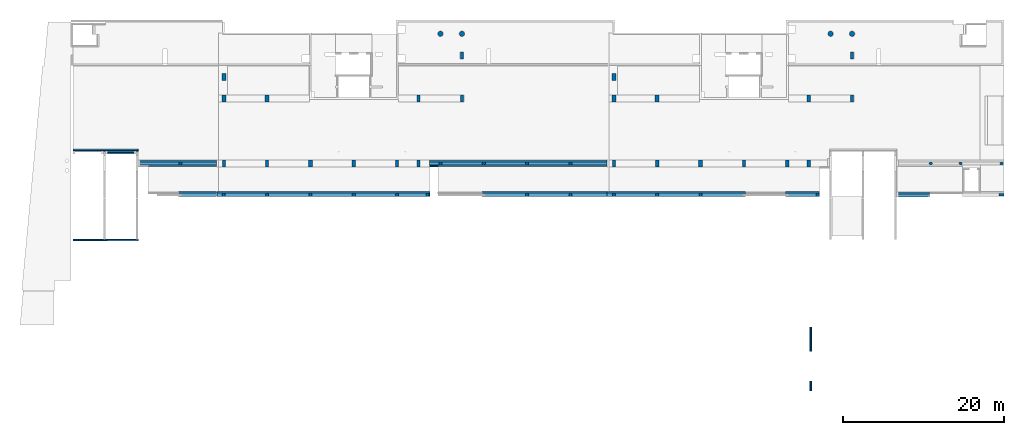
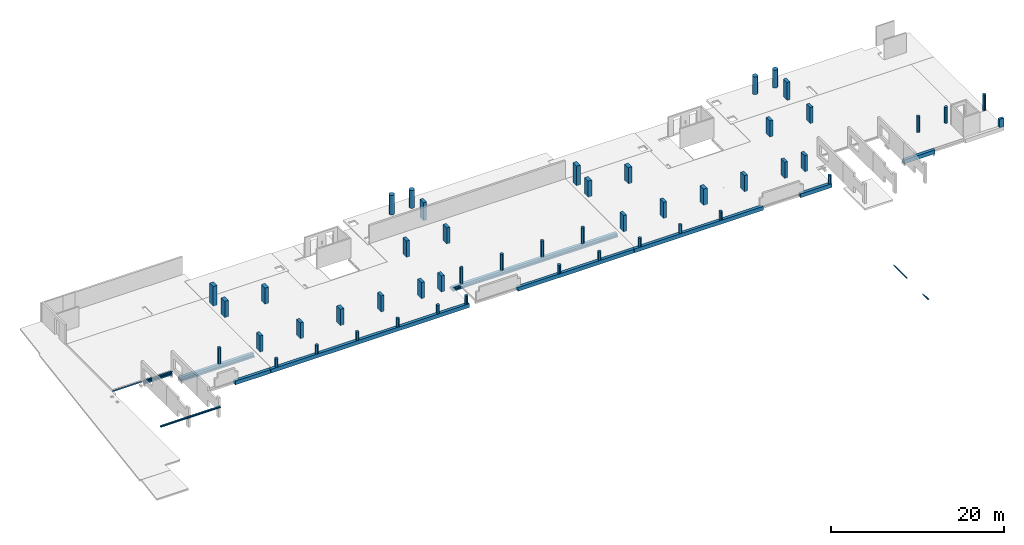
# One storey, part 1 of 8: 49 columns, 14 beams.
"""IFC2X3 building model written with IfcOpenShell, lengths in millimetres."""

import ifcopenshell
import ifcopenshell.guid

model = None  # the IFC model being written
_history = None  # IfcOwnerHistory: only IFC2X3 demands one
_inside = {}  # id of a spatial element -> (the spatial element, [elements in it])
_under = {}  # id of a project, library or spatial element -> (it, [spatial elements below it])
_declared = {}  # id of a project -> (the project, [libraries it declares])
_typed = {}  # id of a type object -> (the type object, [elements of that type])
_made_of = {}  # id of a material, layer set ... -> (it, [elements and type objects made of it])


def new_model(schema):
    """Start an empty IFC model of exactly this schema.

    Asked for "IFC4X3", IfcOpenShell would pick the latest addendum, in which some entities
    have other attributes; the version numbers below select the first issue.
    IFC2X3 requires an IfcOwnerHistory on every rooted entity: one is made here for all.
    """
    global model, _history
    if schema == "IFC4X3":
        model = ifcopenshell.file(schema_version=(4, 3, 0, 0))
    else:
        model = ifcopenshell.file(schema=schema)
    _inside.clear()
    _under.clear()
    _declared.clear()
    _typed.clear()
    _made_of.clear()
    _history = None
    if model.schema == "IFC2X3":
        org = make("IfcOrganization", Name="unknown")
        user = make(
            "IfcPersonAndOrganization",
            ThePerson=make("IfcPerson", FamilyName="unknown"),
            TheOrganization=org,
        )
        app = make(
            "IfcApplication",
            ApplicationDeveloper=org,
            Version="unknown",
            ApplicationFullName="unknown",
            ApplicationIdentifier="unknown",
        )
        _history = make(
            "IfcOwnerHistory",
            OwningUser=user,
            OwningApplication=app,
            ChangeAction="ADDED",
            CreationDate=0,
        )
    return model


def make(cls, **values):
    """One entity of the class cls with the attributes given. An attribute that is None is left unset."""
    return model.create_entity(
        cls, **{name: value for name, value in values.items() if value is not None}
    )


def entity(cls, *values):
    """Any entity or typed value of the class cls, its attributes in the order of the schema. None: left unset."""
    e = model.create_entity(cls)
    for i, value in enumerate(values):
        if value is not None:
            e[i] = value
    return e


def rooted(cls, **values):
    """An entity with a GlobalId (a new one), such as an element, a storey or a relation."""
    return make(cls, GlobalId=ifcopenshell.guid.new(), OwnerHistory=_history, **values)


def si_unit(unit_type, name, prefix=None):
    """IfcSIUnit, for example si_unit("LENGTHUNIT", "METRE", prefix="MILLI")."""
    return make("IfcSIUnit", UnitType=unit_type, Prefix=prefix, Name=name)


def converted_unit(unit_type, name, factor, base, dimensions=None, offset=None):
    """IfcConversionBasedUnit, such as the inch: factor (a typed value) times the base unit."""
    return make(
        "IfcConversionBasedUnit"
        if offset is None
        else "IfcConversionBasedUnitWithOffset",
        ConversionOffset=offset,
        Dimensions=None
        if dimensions is None
        else entity("IfcDimensionalExponents", *dimensions),
        UnitType=unit_type,
        Name=name,
        ConversionFactor=make(
            "IfcMeasureWithUnit", ValueComponent=factor, UnitComponent=base
        ),
    )


def derived_unit(unit_type, elements):
    """IfcDerivedUnit: a product of units, each with its exponent."""
    return make(
        "IfcDerivedUnit",
        Elements=[
            make("IfcDerivedUnitElement", Unit=unit, Exponent=power)
            for unit, power in elements
        ],
        UnitType=unit_type,
    )


def assignment(units):
    """IfcUnitAssignment: the units of a project."""
    return None if units is None else make("IfcUnitAssignment", Units=units)


def point(xyz):
    """IfcCartesianPoint."""
    return None if xyz is None else make("IfcCartesianPoint", Coordinates=xyz)


def direction(xyz):
    """IfcDirection."""
    return None if xyz is None else make("IfcDirection", DirectionRatios=xyz)


def frame(location, z_axis=None, x_axis=None):
    """IfcAxis2Placement3D, a coordinate frame: its origin and axes. An axis left out is left unset."""
    return make(
        "IfcAxis2Placement3D",
        Location=point(location),
        Axis=direction(z_axis),
        RefDirection=direction(x_axis),
    )


def frame_2d(location, x_axis=None):
    """IfcAxis2Placement2D, a coordinate frame in the plane: its origin and x axis."""
    return make(
        "IfcAxis2Placement2D", Location=point(location), RefDirection=direction(x_axis)
    )


def origin():
    """The frame at (0, 0, 0) with its axes left unset."""
    return frame((0.0, 0.0, 0.0))


def origin_2d_with_axis():
    """The frame at (0, 0) in the plane with the x axis (1, 0) written out."""
    return frame_2d((0.0, 0.0), x_axis=(1.0, 0.0))


def place(relative_to, where):
    """IfcLocalPlacement: puts the frame where relative to a parent placement (None: the world)."""
    return make(
        "IfcLocalPlacement", PlacementRelTo=relative_to, RelativePlacement=where
    )


def context(
    kind, dimensions, precision=None, world=None, true_north=None, identifier=None
):
    """IfcGeometricRepresentationContext, for example the 3D "Model" context."""
    return make(
        "IfcGeometricRepresentationContext",
        ContextIdentifier=identifier,
        ContextType=kind,
        CoordinateSpaceDimension=dimensions,
        Precision=precision,
        WorldCoordinateSystem=world,
        TrueNorth=true_north,
    )


def subcontext(parent, identifier, kind, view, scale=None):
    """IfcGeometricRepresentationSubContext, for example "Body" below "Model"."""
    return make(
        "IfcGeometricRepresentationSubContext",
        ContextIdentifier=identifier,
        ContextType=kind,
        ParentContext=parent,
        TargetScale=scale,
        TargetView=view,
    )


def project(units=None, contexts=None):
    """IfcProject with its units and contexts."""
    return rooted(
        "IfcProject",
        Name="project",
        RepresentationContexts=contexts,
        UnitsInContext=assignment(units),
    )


def spatial(cls, under=None, at=None, **own):
    """A site, building, storey or space (cls), placed at a placement, below another one or the project."""
    s = rooted(cls, ObjectPlacement=at, **own)
    if under is not None:
        _under.setdefault(under.id(), (under, []))[1].append(s)
    return s


def polyline(points):
    """IfcPolyline through the points."""
    return make("IfcPolyline", Points=[point(p) for p in points])


def circle_curve(where, radius):
    """IfcCircle in the frame where."""
    return make("IfcCircle", Position=where, Radius=radius)


def parameter(value):
    """IfcParameterValue: where a trimmed curve begins or ends, as a parameter of its basis curve."""
    return model.create_entity("IfcParameterValue", value)


def trimmed(basis, trim1, trim2, sense, master):
    """IfcTrimmedCurve: the piece of a basis curve between two trims."""
    return make(
        "IfcTrimmedCurve",
        BasisCurve=basis,
        Trim1=trim1,
        Trim2=trim2,
        SenseAgreement=sense,
        MasterRepresentation=master,
    )


def segment(curve, same_sense, transition):
    """IfcCompositeCurveSegment."""
    return make(
        "IfcCompositeCurveSegment",
        Transition=transition,
        SameSense=same_sense,
        ParentCurve=curve,
    )


def composite_curve(segments, self_intersect=None):
    """IfcCompositeCurve: segments joined end to end."""
    return make("IfcCompositeCurve", Segments=segments, SelfIntersect=self_intersect)


def profile(cls, at=None, kind="AREA", **sizes):
    """A parametric profile (cls). Its sizes go by their IFC names, for example OverallWidth=200.0."""
    return make(cls, ProfileType=kind, Position=at, **sizes)


def rectangle(**sizes):
    """IfcRectangleProfileDef."""
    return profile("IfcRectangleProfileDef", **sizes)


def circle(**sizes):
    """IfcCircleProfileDef."""
    return profile("IfcCircleProfileDef", **sizes)


def outline(outer, holes=None, kind="AREA"):
    """IfcArbitraryClosedProfileDef: a profile drawn as a closed curve; with holes, ...WithVoids."""
    if holes is None:
        return make("IfcArbitraryClosedProfileDef", ProfileType=kind, OuterCurve=outer)
    return make(
        "IfcArbitraryProfileDefWithVoids",
        ProfileType=kind,
        OuterCurve=outer,
        InnerCurves=holes,
    )


def extrude(swept, where, along, depth):
    """IfcExtrudedAreaSolid: the profile swept, set in the frame where, extruded along a direction by depth."""
    return make(
        "IfcExtrudedAreaSolid",
        SweptArea=swept,
        Position=where,
        ExtrudedDirection=direction(along),
        Depth=depth,
    )


def shape(context_of_items, identifier, shape_type, items):
    """IfcShapeRepresentation: the items that make up one representation, for example the "Body"."""
    return make(
        "IfcShapeRepresentation",
        ContextOfItems=context_of_items,
        RepresentationIdentifier=identifier,
        RepresentationType=shape_type,
        Items=items,
    )


def source(mapping_origin, context_of_items, identifier, shape_type, items):
    """IfcRepresentationMap: a shape defined once, which mapped items show again and again."""
    return make(
        "IfcRepresentationMap",
        MappingOrigin=mapping_origin,
        MappedRepresentation=shape(context_of_items, identifier, shape_type, items),
    )


def transform(
    local_origin,
    x_axis=None,
    y_axis=None,
    z_axis=None,
    scale=None,
    scale2=None,
    scale3=None,
    uniform=True,
):
    """IfcCartesianTransformationOperator3D, or its non-uniform kind. x_axis, y_axis, z_axis: its Axis1, 2, 3."""
    if uniform:
        return make(
            "IfcCartesianTransformationOperator3D",
            Axis1=direction(x_axis),
            Axis2=direction(y_axis),
            LocalOrigin=point(local_origin),
            Scale=scale,
            Axis3=direction(z_axis),
        )
    return make(
        "IfcCartesianTransformationOperator3DnonUniform",
        Axis1=direction(x_axis),
        Axis2=direction(y_axis),
        LocalOrigin=point(local_origin),
        Scale=scale,
        Axis3=direction(z_axis),
        Scale2=scale2,
        Scale3=scale3,
    )


def mapped(mapping_source, mapping_target):
    """IfcMappedItem: shows the shape of a source again, moved by a transform."""
    return make(
        "IfcMappedItem", MappingSource=mapping_source, MappingTarget=mapping_target
    )


def material(Name=None, Category=None):
    """IfcMaterial."""
    return make("IfcMaterial", Name=Name, Category=Category)


def made_of(thing, what):
    """Note that an element or type object is made of a material, layer set ...; save() writes the relation."""
    if what is not None:
        _made_of.setdefault(what.id(), (what, []))[1].append(thing)
    return thing


def type_object(cls, material=None, **own):
    """A type object (cls), such as IfcWallType, which elements share."""
    return made_of(rooted(cls, **own), material)


def type_shapes(of_type, sources):
    """Give a type object the sources (RepresentationMaps) that its elements show as mapped items."""
    of_type.RepresentationMaps = sources


def element(
    cls,
    number,
    at=None,
    inside=None,
    cuts=None,
    type_object=None,
    material=None,
    context=None,
    identifier="Body",
    shape_type=None,
    held_by="IfcProductDefinitionShape",
    body=None,
    shapes=None,
    **own,
):
    """One element of the class cls, such as IfcWall. Its Tag is "e" and its number.

    at: its placement. inside: the storey or other place that contains it. cuts: it is an
    opening in that element (IfcRelVoidsElement). A single representation is given by context,
    identifier, shape_type and body (its items); several are given by shapes. held_by: the class
    of the entity that holds the representations. save() writes the other relations.
    """
    e = rooted(cls, Tag="e%d" % number, ObjectPlacement=at, **own)
    if body is not None:
        shapes = [shape(context, identifier, shape_type, body)]
    if shapes is not None:
        e.Representation = make(held_by, Representations=shapes)
    if inside is not None:
        _inside.setdefault(inside.id(), (inside, []))[1].append(e)
    if cuts is not None:
        rooted(
            "IfcRelVoidsElement", RelatingBuildingElement=cuts, RelatedOpeningElement=e
        )
    if type_object is not None:
        _typed.setdefault(type_object.id(), (type_object, []))[1].append(e)
    return made_of(e, material)


def aggregate(whole, parts):
    """IfcRelAggregates: a whole, such as a stair, and the parts it consists of."""
    return rooted("IfcRelAggregates", RelatingObject=whole, RelatedObjects=parts)


def save(model, path):
    """Write the relations noted so far, then the file.

    IfcRelAggregates (storeys below a building ...), IfcRelContainedInSpatialStructure (elements
    in a storey), IfcRelDefinesByType, IfcRelAssociatesMaterial and IfcRelDeclares: one each for
    every whole, place, type object, material and project.
    """
    for whole, parts in _under.values():
        aggregate(whole, parts)
    for where, things in _inside.values():
        rooted(
            "IfcRelContainedInSpatialStructure",
            RelatedElements=things,
            RelatingStructure=where,
        )
    for kind, things in _typed.values():
        rooted("IfcRelDefinesByType", RelatedObjects=things, RelatingType=kind)
    for what, things in _made_of.values():
        rooted("IfcRelAssociatesMaterial", RelatedObjects=things, RelatingMaterial=what)
    for by, libraries in _declared.values():
        rooted("IfcRelDeclares", RelatingContext=by, RelatedDefinitions=libraries)
    model.write(path)


model = new_model("IFC2X3")

# Units and contexts
model_context = context("Model", 3, precision=0.01, world=origin(), true_north=direction((6.12303176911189e-17, 1.0)))
body_context = subcontext(model_context, "Body", "Model", "MODEL_VIEW")
ifc_project = project(units=[si_unit("LENGTHUNIT", "METRE", prefix="MILLI"), si_unit("AREAUNIT", "SQUARE_METRE"), si_unit("VOLUMEUNIT", "CUBIC_METRE"), converted_unit("PLANEANGLEUNIT", "DEGREE", entity("IfcRatioMeasure", 0.0174532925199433), si_unit("PLANEANGLEUNIT", "RADIAN"), dimensions=[0, 0, 0, 0, 0, 0, 0]), si_unit("MASSUNIT", "GRAM", prefix="KILO"), derived_unit("MASSDENSITYUNIT", [(si_unit("MASSUNIT", "GRAM", prefix="KILO"), 1), (si_unit("LENGTHUNIT", "METRE"), -3)]), si_unit("TIMEUNIT", "SECOND"), si_unit("FREQUENCYUNIT", "HERTZ"), si_unit("THERMODYNAMICTEMPERATUREUNIT", "DEGREE_CELSIUS"), derived_unit("THERMALTRANSMITTANCEUNIT", [(si_unit("MASSUNIT", "GRAM", prefix="KILO"), 1), (si_unit("THERMODYNAMICTEMPERATUREUNIT", "KELVIN"), -1), (si_unit("TIMEUNIT", "SECOND"), -3)]), derived_unit("VOLUMETRICFLOWRATEUNIT", [(si_unit("LENGTHUNIT", "METRE"), 3), (si_unit("TIMEUNIT", "SECOND"), -1)]), si_unit("ELECTRICCURRENTUNIT", "AMPERE"), si_unit("ELECTRICVOLTAGEUNIT", "VOLT"), si_unit("POWERUNIT", "WATT"), si_unit("FORCEUNIT", "NEWTON", prefix="KILO"), si_unit("ILLUMINANCEUNIT", "LUX"), si_unit("LUMINOUSFLUXUNIT", "LUMEN"), si_unit("LUMINOUSINTENSITYUNIT", "CANDELA"), derived_unit("USERDEFINED", [(si_unit("MASSUNIT", "GRAM", prefix="KILO"), -1), (si_unit("LENGTHUNIT", "METRE"), -2), (si_unit("TIMEUNIT", "SECOND"), 3), (si_unit("LUMINOUSFLUXUNIT", "LUMEN"), 1)]), derived_unit("LINEARVELOCITYUNIT", [(si_unit("LENGTHUNIT", "METRE"), 1), (si_unit("TIMEUNIT", "SECOND"), -1)]), si_unit("PRESSUREUNIT", "PASCAL"), derived_unit("USERDEFINED", [(si_unit("LENGTHUNIT", "METRE"), -2), (si_unit("MASSUNIT", "GRAM", prefix="KILO"), 1), (si_unit("TIMEUNIT", "SECOND"), -2)])], contexts=[model_context])

# Site, building, storey
site_placement = place(None, origin())
site = spatial("IfcSite", under=ifc_project, at=site_placement, Name="Default", CompositionType="ELEMENT")
building_placement = place(site_placement, origin())
building = spatial("IfcBuilding", under=site, at=building_placement, Name="niet gebruiken", CompositionType="ELEMENT")
storey_placement = place(building_placement, frame((0.0, 0.0, 3810.0)))
storey = spatial("IfcBuildingStorey", under=building, at=storey_placement, Name="01a eerste tussenverdieping", CompositionType="ELEMENT", Elevation=3810.0)

# Columns
ifc_material_1 = material(Name="NLRS_f2_beton prefab")
column_type_1 = type_object("IfcColumnType", Name="ø400", PredefinedType="COLUMN", material=ifc_material_1)
shared_shape_1 = source(origin(), body_context, "Body", "SweptSolid", [
    extrude(circle(Radius=200.0, at=frame_2d((1.69197988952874e-14, -3.02923644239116e-13), x_axis=(1.0, 0.0))), frame((0.0, 0.0, 3840.0)), (0.0, 0.0, 1.0), 1180.0),
])
type_shapes(column_type_1, [shared_shape_1])
for number, where in (
    (1, (27000.0, 24976.0, -3810.0)),
    (2, (32400.0, 24976.0, -3810.0)),
    (3, (37800.0, 24976.0, -3810.0)),
    (4, (43200.0, 24976.0, -3810.0)),
    (5, (48600.0, 24976.0, -3810.0)),
    (6, (52390.0, 24976.0, -3810.0)),
    (7, (64800.0, 24976.0, -3810.0)),
    (8, (70200.0, 24976.0, -3810.0)),
    (9, (75600.0, 24976.0, -3810.0)),
    (10, (81000.0, 24976.0, -3810.0)),
    (11, (86400.0, 24976.0, -3810.0)),
    (12, (100990.0, 24976.0, -3810.0)),
):
    element("IfcColumn", number, at=place(storey_placement, frame(where)), inside=storey, type_object=column_type_1, material=ifc_material_1, Name="NLRS_28. kolom rond_gen:ø400", ObjectType="ø400", context=body_context, shape_type="MappedRepresentation", body=[
        mapped(shared_shape_1, transform((0.0, 0.0, 0.0), scale=1.0)),
    ])
column_type_2 = type_object("IfcColumnType", Name="400x850", PredefinedType="COLUMN", material=ifc_material_1)
shared_shape_2 = source(origin(), body_context, "Body", "SweptSolid", [
    extrude(rectangle(XDim=850.0, YDim=400.0, at=origin_2d_with_axis()), frame((0.0, 0.0, 3760.0), z_axis=(0.0, 0.0, 1.0), x_axis=(0.0, -1.0, 0.0)), (0.0, 0.0, 1.0), 2300.0),
])
type_shapes(column_type_2, [shared_shape_2])
for number, where, name in (
    (13, (32400.0, 28881.0, -3810.0), "NLRS_28. kolom vierkant_gen:400x850"),
    (14, (27025.0, 28881.0, -3810.0), "NLRS_28. kolom vierkant_gen:400x850"),
    (15, (43200.0, 28881.0, -3810.0), "NLRS_28. kolom vierkant_gen:400x850"),
    (16, (48600.0, 28881.0, -3810.0), "NLRS_28. kolom vierkant_gen:400x850"),
    (17, (51275.0, 28881.0, -3810.0), "NLRS_28. kolom vierkant_gen:400x850"),
    (18, (75625.0, 28881.0, -3810.0), "NLRS_28. kolom vierkant_gen:400x850"),
    (19, (81000.0, 28881.0, -3810.0), "NLRS_28. kolom vierkant_gen:400x850"),
    (20, (91800.0, 28881.0, -3810.0), "NLRS_28. kolom vierkant_gen:400x850"),
    (21, (97200.0, 28881.0, -3810.0), "NLRS_28. kolom vierkant_gen:400x850"),
    (22, (99875.0, 28881.0, -3810.0), "NLRS_28. kolom vierkant_gen:400x850"),
):
    element("IfcColumn", number, at=place(storey_placement, frame(where)), inside=storey, type_object=column_type_2, material=ifc_material_1, Name=name, ObjectType="400x850", context=body_context, shape_type="MappedRepresentation", body=[
        mapped(shared_shape_2, transform((0.0, 0.0, 0.0), scale=1.0)),
    ])
for number, where, z_axis, x_axis, name in (
    (23, (51275.0, 36981.0, -3810.0), (0.0, 0.0, 1.0), (-1.0, 0.0, 0.0), "NLRS_28. kolom vierkant_gen:400x850"),
    (24, (56675.0, 36981.0, -3810.0), (0.0, 0.0, 1.0), (-1.0, 0.0, 0.0), "NLRS_28. kolom vierkant_gen:400x850"),
    (25, (99875.0, 36981.0, -3810.0), (0.0, 0.0, 1.0), (-1.0, 0.0, 0.0), "NLRS_28. kolom vierkant_gen:400x850"),
    (26, (105275.0, 36981.0, -3810.0), (0.0, 0.0, 1.0), (-1.0, 0.0, 0.0), "NLRS_28. kolom vierkant_gen:400x850"),
):
    element("IfcColumn", number, at=place(storey_placement, frame(where, z_axis=z_axis, x_axis=x_axis)), inside=storey, type_object=column_type_2, material=ifc_material_1, Name=name, ObjectType="400x850", context=body_context, shape_type="MappedRepresentation", body=[
        mapped(shared_shape_2, transform((0.0, 0.0, 0.0), scale=1.0)),
    ])
column_type_3 = type_object("IfcColumnType", Name="500x850", PredefinedType="COLUMN", material=ifc_material_1)
shared_shape_3 = source(origin(), body_context, "Body", "SweptSolid", [
    extrude(rectangle(XDim=850.0, YDim=500.0, at=origin_2d_with_axis()), frame((0.0, 0.0, 3760.0), z_axis=(0.0, 0.0, 1.0), x_axis=(0.0, -1.0, 0.0)), (0.0, 0.0, 1.0), 2300.0),
])
type_shapes(column_type_3, [shared_shape_3])
for number, where, name in (
    (27, (37800.0, 28881.0, -3810.0), "NLRS_28. kolom vierkant_gen:500x850"),
    (28, (86400.0, 28881.0, -3810.0), "NLRS_28. kolom vierkant_gen:500x850"),
):
    element("IfcColumn", number, at=place(storey_placement, frame(where)), inside=storey, type_object=column_type_3, material=ifc_material_1, Name=name, ObjectType="500x850", context=body_context, shape_type="MappedRepresentation", body=[
        mapped(shared_shape_3, transform((0.0, 0.0, 0.0), scale=1.0)),
    ])
for number, where, z_axis, x_axis, name in (
    (29, (27025.0, 36981.0, -3810.0), (0.0, 0.0, 1.0), (-1.0, 0.0, 0.0), "NLRS_28. kolom vierkant_gen:500x850"),
    (30, (32400.0, 36981.0, -3810.0), (0.0, 0.0, 1.0), (-1.0, 0.0, 0.0), "NLRS_28. kolom vierkant_gen:500x850"),
    (31, (75625.0, 36981.0, -3810.0), (0.0, 0.0, 1.0), (-1.0, 0.0, 0.0), "NLRS_28. kolom vierkant_gen:500x850"),
    (32, (81000.0, 36981.0, -3810.0), (0.0, 0.0, 1.0), (-1.0, 0.0, 0.0), "NLRS_28. kolom vierkant_gen:500x850"),
):
    element("IfcColumn", number, at=place(storey_placement, frame(where, z_axis=z_axis, x_axis=x_axis)), inside=storey, type_object=column_type_3, material=ifc_material_1, Name=name, ObjectType="500x850", context=body_context, shape_type="MappedRepresentation", body=[
        mapped(shared_shape_3, transform((0.0, 0.0, 0.0), scale=1.0)),
    ])
column_type_4 = type_object("IfcColumnType", Name="ø400", PredefinedType="COLUMN", material=ifc_material_1)
shared_shape_4 = source(origin(), body_context, "Body", "SweptSolid", [
    extrude(circle(Radius=200.0, at=frame_2d((1.69197988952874e-14, -3.02923644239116e-13), x_axis=(1.0, 0.0))), frame((0.0, 0.0, 3760.0)), (0.0, 0.0, 1.0), 2300.0),
])
type_shapes(column_type_4, [shared_shape_4])
for number, where in (
    (33, (21600.0, 28881.0, -3810.0)),
    (34, (54000.0, 28881.0, -3810.0)),
    (35, (59400.0, 28881.0, -3810.0)),
    (36, (64800.0, 28881.0, -3810.0)),
    (37, (70200.0, 28881.0, -3810.0)),
):
    element("IfcColumn", number, at=place(storey_placement, frame(where)), inside=storey, type_object=column_type_4, material=ifc_material_1, Name="NLRS_28. kolom rond_gen:ø400", ObjectType="ø400", context=body_context, shape_type="MappedRepresentation", body=[
        mapped(shared_shape_4, transform((0.0, 0.0, 0.0), scale=1.0)),
    ])
column_type_5 = type_object("IfcColumnType", Name="ø400", PredefinedType="COLUMN", material=ifc_material_1)
shared_shape_5 = source(origin(), body_context, "Body", "SweptSolid", [
    extrude(circle(Radius=200.000000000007, at=frame_2d((-3.75232390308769e-25, -8.66293703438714e-12), x_axis=(1.0, 0.0))), frame((118800.0, 28881.0, 3760.0)), (0.0, 0.0, 1.0), 2300.0),
])
type_shapes(column_type_5, [shared_shape_5])
column_1_placement = place(storey_placement, frame((0.0, 0.0, -3810.0)))
element("IfcColumn", 38, at=column_1_placement, inside=storey, type_object=column_type_5, material=ifc_material_1, Name="NLRS_28. kolom rond_gen:ø400", ObjectType="ø400", context=body_context, shape_type="MappedRepresentation", body=[
    mapped(shared_shape_5, transform((0.0, 0.0, 0.0), scale=1.0)),
])
column_type_6 = type_object("IfcColumnType", Name="ø400", PredefinedType="COLUMN", material=ifc_material_1)
shared_shape_6 = source(origin(), body_context, "Body", "SweptSolid", [
    extrude(circle(Radius=200.000000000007, at=frame_2d((-3.75232390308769e-25, -8.66293703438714e-12), x_axis=(1.0, 0.0))), frame((115075.0, 28881.0, 3760.0)), (0.0, 0.0, 1.0), 2300.0),
])
type_shapes(column_type_6, [shared_shape_6])
column_2_placement = place(storey_placement, frame((0.0, 0.0, -3810.0)))
element("IfcColumn", 39, at=column_2_placement, inside=storey, type_object=column_type_6, material=ifc_material_1, Name="NLRS_28. kolom rond_gen:ø400", ObjectType="ø400", context=body_context, shape_type="MappedRepresentation", body=[
    mapped(shared_shape_6, transform((0.0, 0.0, 0.0), scale=1.0)),
])
column_type_7 = type_object("IfcColumnType", Name="ø400", PredefinedType="COLUMN", material=ifc_material_1)
shared_shape_7 = source(origin(), body_context, "Body", "SweptSolid", [
    extrude(circle(Radius=200.000000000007, at=frame_2d((-3.75232390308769e-25, -8.66293703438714e-12), x_axis=(1.0, 0.0))), frame((123900.0, 28881.0, 3760.0)), (0.0, 0.0, 1.0), 2300.0),
])
type_shapes(column_type_7, [shared_shape_7])
column_3_placement = place(storey_placement, frame((0.0, 0.0, -3810.0)))
element("IfcColumn", 40, at=column_3_placement, inside=storey, type_object=column_type_7, material=ifc_material_1, Name="NLRS_28. kolom rond_gen:ø400", ObjectType="ø400", context=body_context, shape_type="MappedRepresentation", body=[
    mapped(shared_shape_7, transform((0.0, 0.0, 0.0), scale=1.0)),
])
column_type_8 = type_object("IfcColumnType", Name="500x850", PredefinedType="COLUMN", material=ifc_material_1)
shared_shape_8 = source(origin(), body_context, "Body", "SweptSolid", [
    extrude(rectangle(XDim=850.0, YDim=500.0, at=origin_2d_with_axis()), frame((0.0, 0.0, 3760.0), z_axis=(0.0, 0.0, 1.0), x_axis=(0.0, -1.0, 0.0)), (0.0, 0.0, 1.0), 2780.0),
])
type_shapes(column_type_8, [shared_shape_8])
for number, where, z_axis, x_axis, name in (
    (41, (27025.0, 39656.0, -3810.0), (0.0, 0.0, 1.0), (-1.0, 0.0, 0.0), "NLRS_28. kolom vierkant_gen:500x850"),
    (42, (75625.0, 39656.0, -3810.0), (0.0, 0.0, 1.0), (-1.0, 0.0, 0.0), "NLRS_28. kolom vierkant_gen:500x850"),
):
    element("IfcColumn", number, at=place(storey_placement, frame(where, z_axis=z_axis, x_axis=x_axis)), inside=storey, type_object=column_type_8, material=ifc_material_1, Name=name, ObjectType="500x850", context=body_context, shape_type="MappedRepresentation", body=[
        mapped(shared_shape_8, transform((0.0, 0.0, 0.0), scale=1.0)),
    ])
column_type_9 = type_object("IfcColumnType", Name="400x850", PredefinedType="COLUMN", material=ifc_material_1)
shared_shape_9 = source(origin(), body_context, "Body", "SweptSolid", [
    extrude(rectangle(XDim=850.0, YDim=400.0, at=origin_2d_with_axis()), frame((0.0, 0.0, 3830.0), z_axis=(0.0, 0.0, 1.0), x_axis=(0.0, -1.0, 0.0)), (0.0, 0.0, 1.0), 2530.0),
])
type_shapes(column_type_9, [shared_shape_9])
column_4_placement = place(storey_placement, frame((105275.0, 42331.0, -3810.0), z_axis=(0.0, 0.0, 1.0), x_axis=(-1.0, 0.0, 0.0)))
element("IfcColumn", 43, at=column_4_placement, inside=storey, type_object=column_type_9, material=ifc_material_1, Name="NLRS_28. kolom vierkant_gen:400x850", ObjectType="400x850", context=body_context, shape_type="MappedRepresentation", body=[
    mapped(shared_shape_9, transform((0.0, 0.0, 0.0), scale=1.0)),
])
column_type_10 = type_object("IfcColumnType", Name="ø650", PredefinedType="COLUMN", material=ifc_material_1)
shared_shape_10 = source(origin(), body_context, "Body", "SweptSolid", [
    extrude(circle(Radius=325.0, at=frame_2d((3.38395977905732e-14, 4.90135947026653e-13), x_axis=(1.0, 0.0))), frame((0.0, 0.0, 3830.0), z_axis=(0.0, 0.0, 1.0), x_axis=(-1.0, 0.0, 0.0)), (0.0, 0.0, 1.0), 2530.0),
])
type_shapes(column_type_10, [shared_shape_10])
column_5_placement = place(storey_placement, frame((105275.0, 45031.0, -3810.0)))
element("IfcColumn", 44, at=column_5_placement, inside=storey, type_object=column_type_10, material=ifc_material_1, Name="NLRS_28. kolom rond_gen:ø650", ObjectType="ø650", context=body_context, shape_type="MappedRepresentation", body=[
    mapped(shared_shape_10, transform((0.0, 0.0, 0.0), scale=1.0)),
])
column_type_11 = type_object("IfcColumnType", Name="ø650", PredefinedType="COLUMN", material=ifc_material_1)
shared_shape_11 = source(origin(), body_context, "Body", "SweptSolid", [
    extrude(circle(Radius=325.0, at=frame_2d((3.38395977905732e-14, 4.90135947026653e-13), x_axis=(1.0, 0.0))), frame((0.0, 0.0, 3840.0), z_axis=(0.0, 0.0, 1.0), x_axis=(-1.0, 0.0, 0.0)), (0.0, 0.0, 1.0), 2520.0),
])
type_shapes(column_type_11, [shared_shape_11])
for number, where in (
    (45, (102600.0, 45031.0, -3810.0)),
    (46, (56675.0, 45031.0, -3810.0)),
):
    element("IfcColumn", number, at=place(storey_placement, frame(where)), inside=storey, type_object=column_type_11, material=ifc_material_1, Name="NLRS_28. kolom rond_gen:ø650", ObjectType="ø650", context=body_context, shape_type="MappedRepresentation", body=[
        mapped(shared_shape_11, transform((0.0, 0.0, 0.0), scale=1.0)),
    ])
column_type_12 = type_object("IfcColumnType", Name="ø650", PredefinedType="COLUMN", material=ifc_material_1)
shared_shape_12 = source(origin(), body_context, "Body", "SweptSolid", [
    extrude(circle(Radius=325.0, at=frame_2d((3.38395977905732e-14, 4.90135947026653e-13), x_axis=(1.0, 0.0))), frame((0.0, 0.0, 3830.0), z_axis=(0.0, 0.0, 1.0), x_axis=(-1.0, 0.0, 0.0)), (0.0, 0.0, 1.0), 2780.0),
])
type_shapes(column_type_12, [shared_shape_12])
column_6_placement = place(storey_placement, frame((54000.0, 45031.0, -3810.0)))
element("IfcColumn", 47, at=column_6_placement, inside=storey, type_object=column_type_12, material=ifc_material_1, Name="NLRS_28. kolom rond_gen:ø650", ObjectType="ø650", context=body_context, shape_type="MappedRepresentation", body=[
    mapped(shared_shape_12, transform((0.0, 0.0, 0.0), scale=1.0)),
])
column_type_13 = type_object("IfcColumnType", Name="400x850", PredefinedType="COLUMN", material=ifc_material_1)
shared_shape_13 = source(origin(), body_context, "Body", "SweptSolid", [
    extrude(rectangle(XDim=850.0, YDim=400.0, at=origin_2d_with_axis()), frame((0.0, 0.0, 3840.0), z_axis=(0.0, 0.0, 1.0), x_axis=(0.0, -1.0, 0.0)), (0.0, 0.0, 1.0), 2520.0),
])
type_shapes(column_type_13, [shared_shape_13])
column_7_placement = place(storey_placement, frame((56675.0, 42331.0, -3810.0), z_axis=(0.0, 0.0, 1.0), x_axis=(-1.0, 0.0, 0.0)))
element("IfcColumn", 48, at=column_7_placement, inside=storey, type_object=column_type_13, material=ifc_material_1, Name="NLRS_28. kolom vierkant_gen:400x850", ObjectType="400x850", context=body_context, shape_type="MappedRepresentation", body=[
    mapped(shared_shape_13, transform((0.0, 0.0, 0.0), scale=1.0)),
])
column_type_14 = type_object("IfcColumnType", Name="300x600", PredefinedType="COLUMN", material=ifc_material_1)
shared_shape_14 = source(origin(), body_context, "Body", "SweptSolid", [
    extrude(rectangle(XDim=300.000000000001, YDim=600.000000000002, at=origin_2d_with_axis()), frame((123900.0, 24976.0, 3840.0), z_axis=(0.0, 0.0, 1.0), x_axis=(0.0, -1.0, 0.0)), (0.0, 0.0, 1.0), 1180.0),
])
type_shapes(column_type_14, [shared_shape_14])
column_8_placement = place(storey_placement, frame((0.0, 0.0, -3810.0)))
element("IfcColumn", 49, at=column_8_placement, inside=storey, type_object=column_type_14, material=ifc_material_1, Name="NLRS_28. kolom vierkant_gen1:300x600", ObjectType="300x600", context=body_context, shape_type="MappedRepresentation", body=[
    mapped(shared_shape_14, transform((0.0, 0.0, 0.0), scale=1.0)),
])

# Beams
beam_type_1 = type_object("IfcBeamType", Name="NLRS_28.11_SF_WPB_prefabbeton balk enkele sponning_gen:600x540/200x200", PredefinedType="BEAM")
beam_1_placement = place(storey_placement, frame((74750.0, 25076.0, 10.0)))
element("IfcBeam", 50, at=beam_1_placement, inside=storey, type_object=beam_type_1, material=ifc_material_1, Name="NLRS_28.11_SF_WPB_prefabbeton balk enkele sponning_gen:600x540/200x200", ObjectType="NLRS_28.11_SF_WPB_prefabbeton balk enkele sponning_gen:600x540/200x200", context=body_context, shape_type="SweptSolid", body=[
    extrude(outline(polyline([(-293.333333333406, -333.333333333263), (246.666666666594, -333.333333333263), (246.666666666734, 266.666666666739), (46.6666666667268, 266.666666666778), (46.6666666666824, 66.66666666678), (-293.333333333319, 66.6666666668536), (-293.333333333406, -333.333333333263)])), frame((0.0, 33.3333333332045, -293.333333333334), z_axis=(1.0, 0.0, 0.0), x_axis=(0.0, 0.0, -1.0)), (0.0, 0.0, 1.0), 17250.0000000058),
])
beam_2_placement = place(storey_placement, frame((110845.0, 25001.0, 10.0)))
element("IfcBeam", 51, at=beam_2_placement, inside=storey, type_object=beam_type_1, material=ifc_material_1, Name="NLRS_28.11_SF_WPB_prefabbeton balk enkele sponning_gen:600x540/200x200", ObjectType="NLRS_28.11_SF_WPB_prefabbeton balk enkele sponning_gen:600x540/200x200", context=body_context, shape_type="SweptSolid", body=[
    extrude(outline(polyline([(-293.333333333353, -333.333333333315), (246.666666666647, -333.333333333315), (246.666666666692, 266.666666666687), (46.666666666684, 266.666666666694), (46.6666666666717, 66.6666666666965), (-293.33333333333, 66.6666666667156), (-293.333333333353, -333.333333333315)])), frame((0.0, 33.3333333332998, -293.333333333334), z_axis=(1.0, 0.0, 0.0), x_axis=(0.0, 0.0, -1.0)), (0.0, 0.0, 1.0), 4105.00081391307),
])
beam_3_placement = place(storey_placement, frame((59200.0, 25076.0, 10.0)))
element("IfcBeam", 52, at=beam_3_placement, inside=storey, type_object=beam_type_1, material=ifc_material_1, Name="NLRS_28.11_SF_WPB_prefabbeton balk enkele sponning_gen:600x540/200x200", ObjectType="NLRS_28.11_SF_WPB_prefabbeton balk enkele sponning_gen:600x540/200x200", context=body_context, shape_type="SweptSolid", body=[
    extrude(outline(polyline([(-293.333333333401, -333.333333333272), (246.666666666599, -333.333333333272), (246.66666666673, 266.66666666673), (46.6666666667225, 266.666666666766), (46.6666666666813, 66.6666666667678), (-293.33333333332, 66.666666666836), (-293.333333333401, -333.333333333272)])), frame((0.0, 33.3333333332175, -293.333333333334), z_axis=(1.0, 0.0, 0.0), x_axis=(0.0, 0.0, -1.0)), (0.0, 0.0, 1.0), 15530.0000000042),
])
beam_4_placement = place(storey_placement, frame((21400.0, 25076.0, 10.0)))
element("IfcBeam", 53, at=beam_4_placement, inside=storey, type_object=beam_type_1, material=ifc_material_1, Name="NLRS_28.11_SF_WPB_prefabbeton balk enkele sponning_gen:600x540/200x200", ObjectType="NLRS_28.11_SF_WPB_prefabbeton balk enkele sponning_gen:600x540/200x200", context=body_context, shape_type="SweptSolid", body=[
    extrude(outline(polyline([(-293.333333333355, -333.333333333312), (246.666666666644, -333.333333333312), (246.666666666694, 266.66666666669), (46.6666666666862, 266.666666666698), (46.6666666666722, 66.6666666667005), (-293.33333333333, 66.6666666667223), (-293.333333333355, -333.333333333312)])), frame((0.0, 33.3333333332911, -293.333333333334), z_axis=(1.0, 0.0, 0.0), x_axis=(0.0, 0.0, -1.0)), (0.0, 0.0, 1.0), 4715.00000000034),
])
beam_5_placement = place(storey_placement, frame((97000.0, 25076.0, 10.0)))
element("IfcBeam", 54, at=beam_5_placement, inside=storey, type_object=beam_type_1, material=ifc_material_1, Name="NLRS_28.11_SF_WPB_prefabbeton balk enkele sponning_gen:600x540/200x200", ObjectType="NLRS_28.11_SF_WPB_prefabbeton balk enkele sponning_gen:600x540/200x200", context=body_context, shape_type="SweptSolid", body=[
    extrude(outline(polyline([(-293.333333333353, -333.333333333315), (246.666666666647, -333.333333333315), (246.666666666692, 266.666666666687), (46.666666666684, 266.666666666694), (46.6666666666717, 66.6666666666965), (-293.33333333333, 66.6666666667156), (-293.333333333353, -333.333333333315)])), frame((0.0, 33.3333333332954, -293.333333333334), z_axis=(1.0, 0.0, 0.0), x_axis=(0.0, 0.0, -1.0)), (0.0, 0.0, 1.0), 4205.00000000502),
])
beam_6_placement = place(storey_placement, frame((26135.0, 25076.0, 10.0)))
element("IfcBeam", 55, at=beam_6_placement, inside=storey, type_object=beam_type_1, material=ifc_material_1, Name="NLRS_28.11_SF_WPB_prefabbeton balk enkele sponning_gen:600x540/200x200", ObjectType="NLRS_28.11_SF_WPB_prefabbeton balk enkele sponning_gen:600x540/200x200", context=body_context, shape_type="SweptSolid", body=[
    extrude(outline(polyline([(-293.333333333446, -333.333333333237), (246.666666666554, -333.333333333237), (246.666666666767, 266.666666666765), (46.6666666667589, 266.666666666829), (46.6666666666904, 66.6666666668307), (-293.333333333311, 66.6666666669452), (-293.333333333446, -333.333333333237)])), frame((0.0, 33.3333333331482, -293.333333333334), z_axis=(1.0, 0.0, 0.0), x_axis=(0.0, 0.0, -1.0)), (0.0, 0.0, 1.0), 26564.9999999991),
])
beam_type_2 = type_object("IfcBeamType", Name="NLRS_28.11_SF_WPB_prefabbeton balk dubbele sponning_gen:800x460/200x260/200x260", PredefinedType="BEAM")
beam_7_placement = place(storey_placement, frame((52660.0, 28881.0, -70.0)))
element("IfcBeam", 56, at=beam_7_placement, inside=storey, type_object=beam_type_2, material=ifc_material_1, Name="NLRS_28.11_SF_WPB_prefabbeton balk dubbele sponning_gen:800x460/200x260/200x260", ObjectType="NLRS_28.11_SF_WPB_prefabbeton balk dubbele sponning_gen:800x460/200x260/200x260", context=body_context, shape_type="SweptSolid", body=[
    extrude(outline(polyline([(15.0, -400.0), (215.0, -400.0), (215.0, 400.0), (15.0, 400.0), (15.0, 200.0), (-245.0, 200.0), (-245.0, -200.0), (15.0, -200.0), (15.0, -400.0)])), frame((0.0, 0.0, -245.0), z_axis=(1.0, 0.0, 0.0), x_axis=(0.0, 0.0, -1.0)), (0.0, 0.0, 1.0), 22069.9999999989),
])
beam_8_placement = place(storey_placement, frame((16345.0, 28881.0, -70.0)))
element("IfcBeam", 57, at=beam_8_placement, inside=storey, type_object=beam_type_2, material=ifc_material_1, Name="NLRS_28.11_SF_WPB_prefabbeton balk dubbele sponning_gen:800x460/200x260/200x260", ObjectType="NLRS_28.11_SF_WPB_prefabbeton balk dubbele sponning_gen:800x460/200x260/200x260", context=body_context, shape_type="SweptSolid", body=[
    extrude(outline(polyline([(15.0, -400.0), (215.0, -400.0), (215.0, 400.0), (15.0, 400.0), (15.0, 200.0), (-245.0, 200.0), (-245.0, -200.0), (15.0, -200.0), (15.0, -400.0)])), frame((0.0, 0.0, -245.0), z_axis=(1.0, 0.0, 0.0), x_axis=(0.0, 0.0, -1.0)), (0.0, 0.0, 1.0), 9785.00000000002),
])
ifc_material_2 = material(Name="NLRS_h2_staal")
beam_type_3 = type_object("IfcBeamType", Name="NLRS_28.11_SF_WPB_stalen ligger hoekprofiel gelijkzijdig_gen:ligger gelijzijdig hoekprofiel LEQU_200x200x15", PredefinedType="BEAM")
beam_9_placement = place(storey_placement, frame((8245.0, 30626.0, -252.499999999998)))
element("IfcBeam", 58, at=beam_9_placement, inside=storey, type_object=beam_type_3, material=ifc_material_2, Name="NLRS_28.11_SF_WPB_stalen ligger hoekprofiel gelijkzijdig_gen:ligger gelijzijdig hoekprofiel LEQU_200x200x15", ObjectType="NLRS_28.11_SF_WPB_stalen ligger hoekprofiel gelijkzijdig_gen:ligger gelijzijdig hoekprofiel LEQU_200x200x15", context=body_context, shape_type="SweptSolid", body=[
    extrude(outline(composite_curve([segment(polyline([(-126.666666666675, -73.3333333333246), (73.3333333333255, -73.3333333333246)]), True, "CONTINUOUS"), segment(polyline([(73.333333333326, -73.3333333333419), (73.3333333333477, 126.666666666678)]), True, "CONTINUOUS"), segment(polyline([(73.3333333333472, 126.666666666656), (66.3333333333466, 126.666666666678)]), True, "CONTINUOUS"), segment(trimmed(circle_curve(frame_2d((66.3333333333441, 118.666666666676), x_axis=(0.0, 1.0)), 7.99999999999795), [parameter(0.0)], [parameter(90.0000000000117)], True, "PARAMETER"), True, "CONTINUOUS"), segment(polyline([(58.3333333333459, 118.666666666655), (58.3333333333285, -42.3333333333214)]), True, "CONTINUOUS"), segment(trimmed(circle_curve(frame_2d((42.3333333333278, -42.3333333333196), x_axis=(1.0, 0.0)), 16.0000000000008), [parameter(270.000000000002)], [parameter(0.0)], True, "PARAMETER"), False, "CONTINUOUS"), segment(polyline([(42.3333333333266, -58.333333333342), (-118.666666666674, -58.3333333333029)]), True, "CONTINUOUS"), segment(trimmed(circle_curve(frame_2d((-118.666666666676, -66.3333333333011), x_axis=(0.0, 1.0)), 7.99999999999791), [parameter(0.0)], [parameter(90.0000000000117)], True, "PARAMETER"), True, "CONTINUOUS"), segment(polyline([(-126.666666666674, -66.3333333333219), (-126.666666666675, -73.3333333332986)]), True, "CONTINUOUS")], self_intersect=False)), frame((0.0, -126.666666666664, -19.1666666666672), z_axis=(1.0, 0.0, 0.0), x_axis=(0.0, 0.0, -1.0)), (0.0, 0.0, 1.0), 8080.00000000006),
])
beam_10_placement = place(storey_placement, frame((8245.0, 19226.0, 1507.5)))
element("IfcBeam", 59, at=beam_10_placement, inside=storey, type_object=beam_type_3, material=ifc_material_2, Name="NLRS_28.11_SF_WPB_stalen ligger hoekprofiel gelijkzijdig_gen:ligger gelijzijdig hoekprofiel LEQU_200x200x15", ObjectType="NLRS_28.11_SF_WPB_stalen ligger hoekprofiel gelijkzijdig_gen:ligger gelijzijdig hoekprofiel LEQU_200x200x15", context=body_context, shape_type="SweptSolid", body=[
    extrude(outline(composite_curve([segment(polyline([(66.3333333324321, -126.666666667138), (73.3333333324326, -126.666666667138)]), True, "CONTINUOUS"), segment(polyline([(73.3333333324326, -126.666666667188), (73.3333333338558, 73.3333333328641)]), True, "CONTINUOUS"), segment(polyline([(73.3333333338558, 73.3333333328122), (-126.666666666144, 73.3333333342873)]), True, "CONTINUOUS"), segment(polyline([(-126.666666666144, 73.3333333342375), (-126.666666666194, 66.3333333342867)]), True, "CONTINUOUS"), segment(trimmed(circle_curve(frame_2d((-118.666666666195, 66.3333333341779), x_axis=(-1.0, 0.0)), 8.00000000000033), [parameter(0.0)], [parameter(90.0000000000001)], True, "PARAMETER"), True, "CONTINUOUS"), segment(polyline([(-118.666666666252, 58.3333333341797), (42.3333333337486, 58.3333333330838)]), True, "CONTINUOUS"), segment(trimmed(circle_curve(frame_2d((42.3333333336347, 42.3333333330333), x_axis=(0.0, 1.0)), 15.9999999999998), [parameter(270.0)], [parameter(0.0)], True, "PARAMETER"), False, "CONTINUOUS"), segment(polyline([(58.3333333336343, 42.3333333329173), (58.3333333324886, -118.666666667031)]), True, "CONTINUOUS"), segment(trimmed(circle_curve(frame_2d((66.333333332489, -118.666666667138), x_axis=(-1.0, 0.0)), 8.00000000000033), [parameter(0.0)], [parameter(90.0000000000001)], True, "PARAMETER"), True, "CONTINUOUS")], self_intersect=False)), frame((0.0, 126.666666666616, -19.1666666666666), z_axis=(1.0, 0.0, 0.0), x_axis=(0.0, 0.0, -1.0)), (0.0, 0.0, 1.0), 8080.00000000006),
])
beam_11_placement = place(storey_placement, frame((100117.5, 8496.0, -1330.0), z_axis=(0.0, 0.0, 1.0), x_axis=(0.0, -1.0, 0.0)))
element("IfcBeam", 60, at=beam_11_placement, inside=storey, type_object=beam_type_3, material=ifc_material_2, Name="NLRS_28.11_SF_WPB_stalen ligger hoekprofiel gelijkzijdig_gen:ligger gelijzijdig hoekprofiel LEQU_200x200x15", ObjectType="NLRS_28.11_SF_WPB_stalen ligger hoekprofiel gelijkzijdig_gen:ligger gelijzijdig hoekprofiel LEQU_200x200x15", context=body_context, shape_type="SweptSolid", body=[
    extrude(outline(composite_curve([segment(polyline([(-126.666666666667, -73.3333333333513), (73.3333333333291, -73.3333333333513)]), True, "CONTINUOUS"), segment(polyline([(73.333333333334, -73.333333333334), (73.3333333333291, 126.666666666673)]), True, "CONTINUOUS"), segment(polyline([(73.333333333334, 126.666666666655), (66.3333333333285, 126.666666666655)]), True, "CONTINUOUS"), segment(trimmed(circle_curve(frame_2d((66.3333333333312, 118.666666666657), x_axis=(0.0, 1.0)), 7.99999999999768), [parameter(0.0)], [parameter(90.0000000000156)], True, "PARAMETER"), True, "CONTINUOUS"), segment(polyline([(58.3333333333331, 118.666666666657), (58.3333333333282, -42.333333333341)]), True, "CONTINUOUS"), segment(trimmed(circle_curve(frame_2d((42.3333333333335, -42.333333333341), x_axis=(1.0, 0.0)), 15.9999999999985), [parameter(269.999999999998)], [parameter(0.0)], True, "PARAMETER"), False, "CONTINUOUS"), segment(polyline([(42.3333333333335, -58.3333333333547), (-118.666666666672, -58.3333333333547)]), True, "CONTINUOUS"), segment(trimmed(circle_curve(frame_2d((-118.666666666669, -66.3333333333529), x_axis=(0.0, 1.0)), 7.99999999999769), [parameter(0.0)], [parameter(90.0000000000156)], True, "PARAMETER"), True, "CONTINUOUS"), segment(polyline([(-126.666666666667, -66.3333333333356), (-126.666666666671, -73.333333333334)]), True, "CONTINUOUS")], self_intersect=False)), frame((0.0, -19.1666666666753, 73.3333333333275), z_axis=(1.0, 0.0, 0.0), x_axis=(0.0, 0.0, -1.0)), (0.0, 0.0, 1.0), 2985.99999999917),
])
beam_12_placement = place(storey_placement, frame((100117.5, 1750.0, -1330.0), z_axis=(0.0, 0.0, 1.0), x_axis=(0.0, -1.0, 0.0)))
element("IfcBeam", 61, at=beam_12_placement, inside=storey, type_object=beam_type_3, material=ifc_material_2, Name="NLRS_28.11_SF_WPB_stalen ligger hoekprofiel gelijkzijdig_gen:ligger gelijzijdig hoekprofiel LEQU_200x200x15", ObjectType="NLRS_28.11_SF_WPB_stalen ligger hoekprofiel gelijkzijdig_gen:ligger gelijzijdig hoekprofiel LEQU_200x200x15", context=body_context, shape_type="SweptSolid", body=[
    extrude(outline(composite_curve([segment(polyline([(-126.666666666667, -73.333333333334), (73.3333333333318, -73.333333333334)]), True, "CONTINUOUS"), segment(polyline([(73.333333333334, -73.3333333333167), (73.3333333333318, 126.666666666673)]), True, "CONTINUOUS"), segment(polyline([(73.333333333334, 126.666666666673), (66.3333333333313, 126.666666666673)]), True, "CONTINUOUS"), segment(trimmed(circle_curve(frame_2d((66.3333333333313, 118.666666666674), x_axis=(0.0, 1.0)), 7.99999999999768), [parameter(0.0)], [parameter(90.0000000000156)], True, "PARAMETER"), True, "CONTINUOUS"), segment(polyline([(58.3333333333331, 118.666666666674), (58.3333333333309, -42.333333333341)]), True, "CONTINUOUS"), segment(trimmed(circle_curve(frame_2d((42.3333333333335, -42.3333333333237), x_axis=(1.0, 0.0)), 15.9999999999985), [parameter(269.999999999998)], [parameter(0.0)], True, "PARAMETER"), False, "CONTINUOUS"), segment(polyline([(42.3333333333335, -58.3333333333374), (-118.666666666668, -58.3333333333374)]), True, "CONTINUOUS"), segment(trimmed(circle_curve(frame_2d((-118.666666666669, -66.3333333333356), x_axis=(0.0, 1.0)), 7.99999999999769), [parameter(0.0)], [parameter(90.0000000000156)], True, "PARAMETER"), True, "CONTINUOUS"), segment(polyline([(-126.666666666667, -66.3333333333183), (-126.666666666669, -73.333333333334)]), True, "CONTINUOUS")], self_intersect=False)), frame((0.0, -19.1666666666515, 73.3333333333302), z_axis=(1.0, 0.0, 0.0), x_axis=(0.0, 0.0, -1.0)), (0.0, 0.0, 1.0), 1215.00000000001),
])
beam_type_4 = type_object("IfcBeamType", Name="NLRS_28.11_SF_WPB_prefabbeton balk recht_gen:200x140", PredefinedType="BEAM")
beam_13_placement = place(storey_placement, frame((52700.0, 28581.0, -190.0)))
element("IfcBeam", 62, at=beam_13_placement, inside=storey, type_object=beam_type_4, material=ifc_material_1, Name="NLRS_28.11_SF_WPB_prefabbeton balk recht_gen:200x140", ObjectType="NLRS_28.11_SF_WPB_prefabbeton balk recht_gen:200x140", context=body_context, shape_type="SweptSolid", body=[
    extrude(rectangle(XDim=140.0, YDim=199.999999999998, at=frame_2d((-2.70006239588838e-13, 8.66151594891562e-12), x_axis=(1.0, 0.0))), frame((0.0, 0.0, -70.0), z_axis=(1.0, 0.0, 0.0), x_axis=(0.0, 0.0, -1.0)), (0.0, 0.0, 1.0), 989.999999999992),
])
beam_type_5 = type_object("IfcBeamType", Name="NLRS_28.11_SF_WPB_prefabbeton balk enkele sponning_gen:380x370/180x150", PredefinedType="BEAM")
beam_14_placement = place(storey_placement, frame((12295.0, 30236.0, -80.0)))
element("IfcBeam", 63, at=beam_14_placement, inside=storey, type_object=beam_type_5, material=ifc_material_1, Name="NLRS_28.11_SF_WPB_prefabbeton balk enkele sponning_gen:380x370/180x150", ObjectType="NLRS_28.11_SF_WPB_prefabbeton balk enkele sponning_gen:380x370/180x150", context=body_context, shape_type="SweptSolid", body=[
    extrude(outline(polyline([(-23.3333333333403, -186.666666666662), (196.666666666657, -186.666666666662), (196.666666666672, 193.333333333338), (-173.333333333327, 193.333333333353), (-173.333333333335, -6.66666666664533), (-23.3333333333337, -6.66666666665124), (-23.3333333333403, -186.666666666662)])), frame((0.0, -3.33333333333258, -173.333333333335), z_axis=(1.0, 0.0, 0.0), x_axis=(0.0, 0.0, -1.0)), (0.0, 0.0, 1.0), 3759.99999999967),
])

save(model, "model.ifc")
